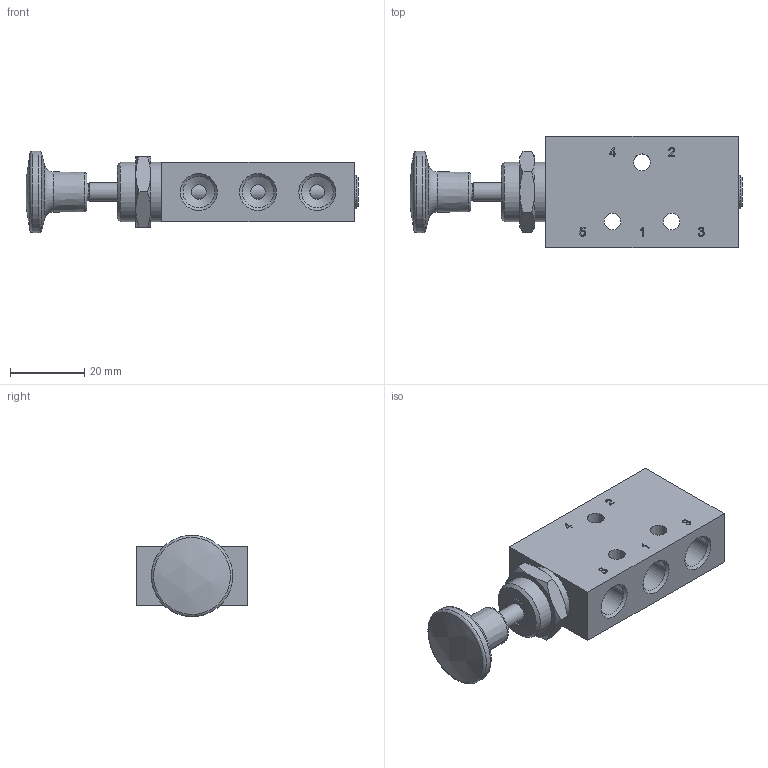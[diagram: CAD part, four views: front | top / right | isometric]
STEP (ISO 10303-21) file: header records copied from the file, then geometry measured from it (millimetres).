
FILE_DESCRIPTION(/* description */ ('Unknown','CAx-IF Rec.Pracs.---Representation and Presentation of Product Manufacturing Information (PMI)---4.0---2014-10-13','CAx-IF Rec.Pracs.---3D Tessellated Geometry---0.4---2014-09-14','2;1'),/* implementation_level */ '2;1');
FILE_NAME(/* name */ 'BH 511 401',/* time_stamp */ '2020-07-06T08:49:47+02:00',/* author */ ('Unknown'),/* organization */ ('Unknown'),/* preprocessor_version */ 'ST-DEVELOPER v16.7',/* originating_system */ 'DEX',/* authorisation */ $);
FILE_SCHEMA (('AP242_MANAGED_MODEL_BASED_3D_ENGINEERING_MIM_LF { 1 0 10303 442 20130219 1 4 }'));
Length unit declared in the file: millimetre
Products named in the file (2): BH 511 401
Assembly tree (1 placements, depth 2):
  BH 511 401
    BH 511 401
Bounding box: 89.66 x 30 x 21.99 mm (x, y, z)
Volume: 24970.2 mm3; surface area: 13326.9 mm2
Topology: 6 solids, 6 shells, 212 faces, 522 edges, 337 vertices
Faces by surface type: plane 104, cone 41, cylinder 39, bspline 20, torus 7, sphere 1
Full cylindrical faces by diameter (mm): 1 x1, 3 x2, 4 x5, 4.134 x2, 4.5 x4, 5 x5, 6 x1, 8 x1, 8.05 x1, 8.06 x1, 8.566 x10, 9 x1, 14.917 x1, 16 x1, 22 x1
Entity records: 7960 total; most frequent: CARTESIAN_POINT 2124, DIRECTION 840, ORIENTED_EDGE 830, EDGE_CURVE 415, EDGE_LOOP 324, FACE_BOUND 324, VERTEX_POINT 303, AXIS2_PLACEMENT_3D 300
